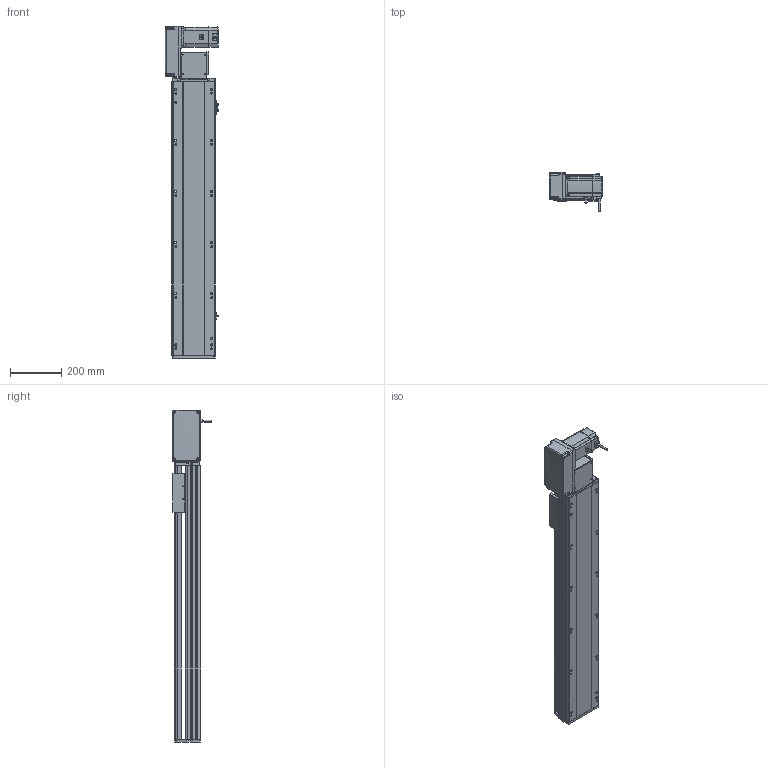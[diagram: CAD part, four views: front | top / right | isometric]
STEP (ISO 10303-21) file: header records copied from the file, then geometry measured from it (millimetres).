
FILE_DESCRIPTION (( 'STEP AP214' ), '1' );
FILE_NAME ('RTB17S-XX-800-L-M75-C4.STEP', '2025-12-12T00:12:10', ( '' ), ( '' ), 'SwSTEP 2.0', 'SolidWorks 2018', '' );
FILE_SCHEMA (( 'AUTOMOTIVE_DESIGN' ));
Length unit declared in the file: millimetre
Products named in the file (15): EE672^RTB17S-XX-XX-L-M75-C4; RTB17S-L-001-耜醱啣^RTB17S-XX-XX-L-M75-C4; RTB22S-GY-018P^RTB17S-L-々湍釱蚾饜-750W_RTB17S-XX-XX-L-M75-C4; RTB17S-L-々湍釱蚾饜-750W^RTB17S-XX-XX-L-M75-C4; RTB17S-賑釱^RTB17S-XX-XX-L-M75-C4; RMP17S-L-014-T20-P75--々湍釱^RTB17S-L-々湍釱蚾饜-750W_RTB17S-XX-XX-L-M75-C4; 750W萇儂^RTB17S-XX-XX-L-M75-C4; RTH13-BL-012覜茼え俋离^RTB17S-賑釱_RTB17S-XX-XX-L-M75-C4; RTB17S-L-004-賑釱^RTB17S-賑釱_RTB17S-XX-XX-L-M75-C4; RTB17S-XX-800-L-M75-C4; RTB22S-GY-008-M75--萇儂啣^RTB17S-L-々湍釱蚾饜-750W_RTB17S-XX-XX-L-M75-C4; RTB22S-GY-005P^RTB17S-L-々湍釱蚾饜-750W_RTB17S-XX-XX-L-M75-C4; RTB17S-L-007奻裔^RTB17S-XX-XX-L-M75-C4; RTB22S-GY-017P^RTB17S-L-々湍釱蚾饜-750W_RTB17S-XX-XX-L-M75-C4; RTB17-R-011菁釱^RTB17S-XX-XX-L-M75-C4
Assembly tree (17 placements, depth 3):
  RTB17S-XX-800-L-M75-C4
    RTB17-R-011菁釱^RTB17S-XX-XX-L-M75-C4
    EE672^RTB17S-XX-XX-L-M75-C4  x3
    RTB17S-L-001-耜醱啣^RTB17S-XX-XX-L-M75-C4
    RTB17S-賑釱^RTB17S-XX-XX-L-M75-C4
      RTB17S-L-004-賑釱^RTB17S-賑釱_RTB17S-XX-XX-L-M75-C4
      RTH13-BL-012覜茼え俋离^RTB17S-賑釱_RTB17S-XX-XX-L-M75-C4
    RTB17S-L-007奻裔^RTB17S-XX-XX-L-M75-C4
    750W萇儂^RTB17S-XX-XX-L-M75-C4
    RTB17S-L-々湍釱蚾饜-750W^RTB17S-XX-XX-L-M75-C4
      RMP17S-L-014-T20-P75--々湍釱^RTB17S-L-々湍釱蚾饜-750W_RTB17S-XX-XX-L-M75-C4
      RTB22S-GY-005P^RTB17S-L-々湍釱蚾饜-750W_RTB17S-XX-XX-L-M75-C4
      RTB22S-GY-017P^RTB17S-L-々湍釱蚾饜-750W_RTB17S-XX-XX-L-M75-C4  x2
      RTB22S-GY-008-M75--萇儂啣^RTB17S-L-々湍釱蚾饜-750W_RTB17S-XX-XX-L-M75-C4
      RTB22S-GY-018P^RTB17S-L-々湍釱蚾饜-750W_RTB17S-XX-XX-L-M75-C4
Bounding box: 210.4 x 152.7 x 1299 mm (x, y, z)
Volume: 10953528.4 mm3; surface area: 1824353.9 mm2
Topology: 17 solids, 17 shells, 2073 faces, 5728 edges, 3698 vertices
Faces by surface type: plane 968, cylinder 689, bspline 294, cone 110, sphere 8, torus 4
Entity records: 57334 total; most frequent: CARTESIAN_POINT 16792, ORIENTED_EDGE 8300, DIRECTION 7772, EDGE_CURVE 4150, AXIS2_PLACEMENT_3D 2718, VERTEX_POINT 2702, LINE 2336, VECTOR 2336
